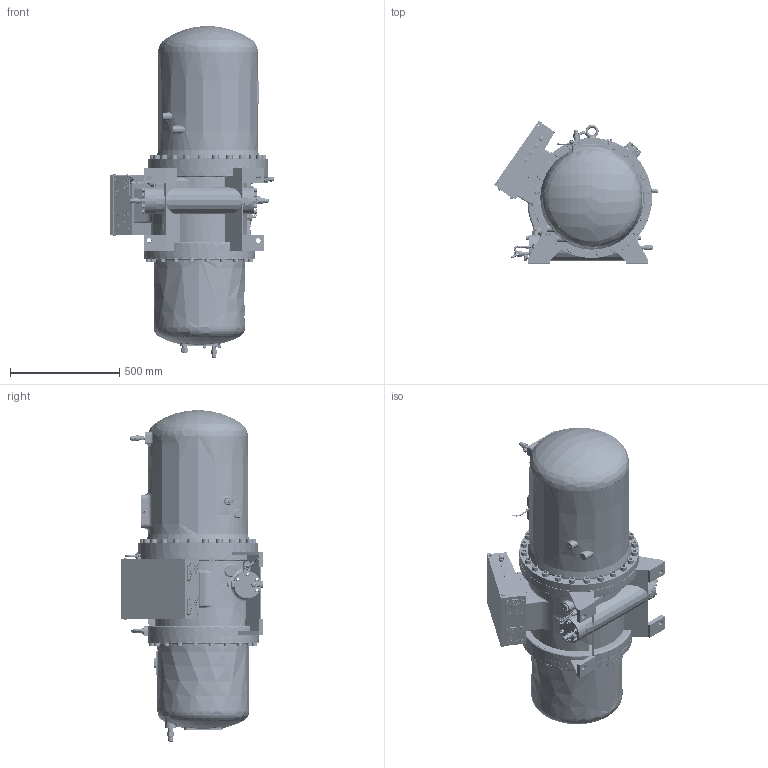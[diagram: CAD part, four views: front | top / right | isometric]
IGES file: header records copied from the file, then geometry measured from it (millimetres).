
Global section: file name: RC2-510A&B outline; native system: Autodesk Inventor 2017; preprocessor: unknown; author: hedylu; date: 20170626.161856; units: centimetre
Bounding box: 749.47 x 655.17 x 1521.99 mm (x, y, z)
Surface area: 4976150.6 mm2 (no closed solid volume)
Topology: 0 solids, 0 shells, 2770 faces, 34606 edges, 34582 vertices
Faces by surface type: bspline 1452, revolution 1318
